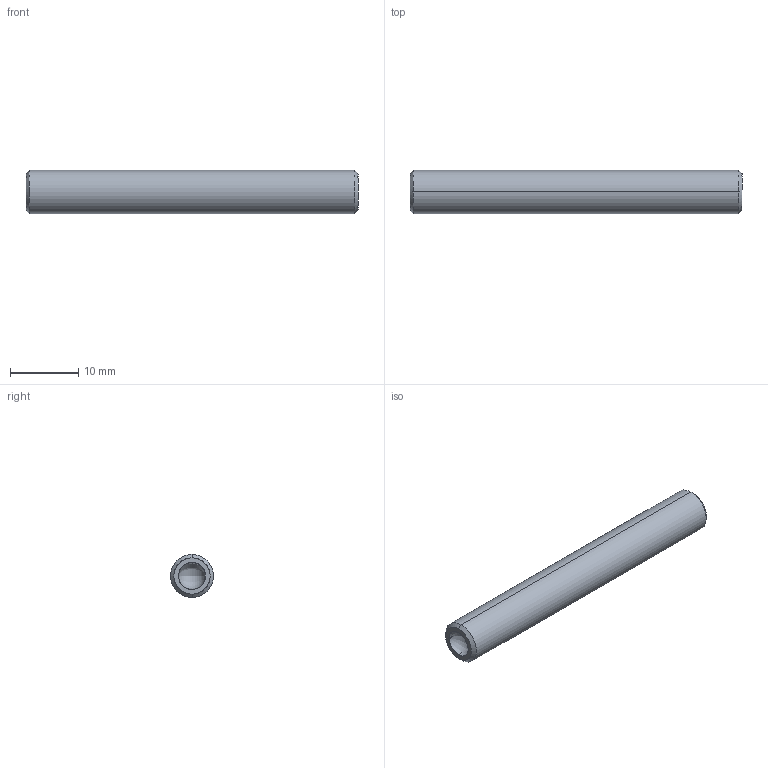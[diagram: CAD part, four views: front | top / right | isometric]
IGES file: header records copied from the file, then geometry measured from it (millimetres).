
Start section: SolidWorks IGES file using analytic representation for surfaces
Global section: file name: C:\Users\workpc\Desktop\KMA Solidworks\TS250-80 Series\TS250-80 High Vacuum\TS250-80 High Vacuum 3D Models\TS250-80-2000-HV.IGS; native system: SolidWorks 2013; preprocessor: SolidWorks 2013; author: workpc; date: 130509.085900; units: inch
Bounding box: 48.82 x 6.35 x 6.35 mm (x, y, z)
Surface area: 1117.8 mm2 (no closed solid volume)
Topology: 0 solids, 0 shells, 29 faces, 267 edges, 264 vertices
Faces by surface type: revolution 18, bspline 11
